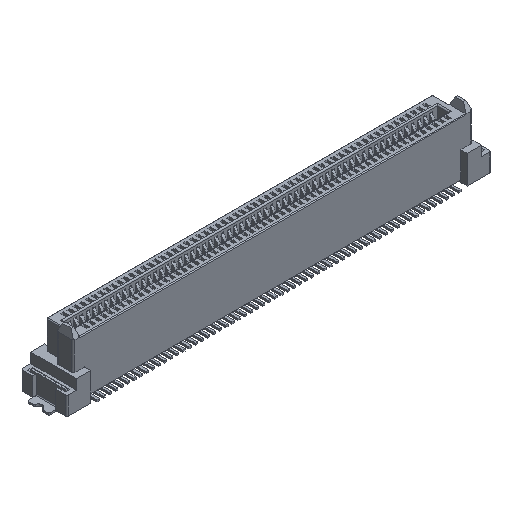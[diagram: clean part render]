
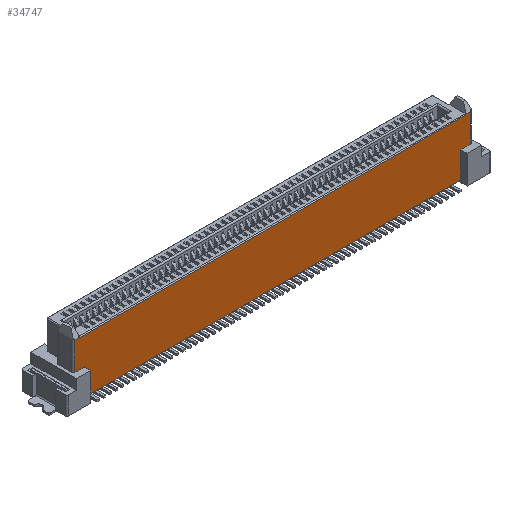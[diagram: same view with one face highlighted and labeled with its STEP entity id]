
A CAD part, isometric view. The second image highlights one B-rep face of the part: STEP entity #34747.
In plain terms, the highlighted planar face has unit normal (0, -1, 0).
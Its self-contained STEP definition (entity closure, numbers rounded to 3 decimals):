
#33016=CARTESIAN_POINT('Vertex',(24.55,-2.175,3.2)) ;
#33019=CARTESIAN_POINT('Line Origine',(0.,-2.175,3.2)) ;
#33023=CARTESIAN_POINT('Vertex',(-24.55,-2.175,3.2)) ;
#34504=CARTESIAN_POINT('Vertex',(25.8,-2.175,10.35)) ;
#34525=CARTESIAN_POINT('Vertex',(25.2,-2.175,10.35)) ;
#34528=CARTESIAN_POINT('Line Origine',(0.,-2.175,10.35)) ;
#34646=CARTESIAN_POINT('Axis2P3D Location',(0.,-2.175,6.65)) ;
#34651=CARTESIAN_POINT('Line Origine',(25.2,-2.175,10.3)) ;
#34655=CARTESIAN_POINT('Vertex',(25.2,-2.175,10.25)) ;
#34658=CARTESIAN_POINT('Line Origine',(0.,-2.175,10.25)) ;
#34662=CARTESIAN_POINT('Vertex',(-25.2,-2.175,10.25)) ;
#34665=CARTESIAN_POINT('Line Origine',(-25.2,-2.175,10.3)) ;
#34669=CARTESIAN_POINT('Vertex',(-25.2,-2.175,10.35)) ;
#34672=CARTESIAN_POINT('Line Origine',(-25.5,-2.175,10.35)) ;
#34676=CARTESIAN_POINT('Vertex',(-25.8,-2.175,10.35)) ;
#34679=CARTESIAN_POINT('Line Origine',(-25.8,-2.175,8.5)) ;
#34683=CARTESIAN_POINT('Vertex',(-25.8,-2.175,6.65)) ;
#34686=CARTESIAN_POINT('Line Origine',(-25.5,-2.175,6.65)) ;
#34690=CARTESIAN_POINT('Vertex',(-25.2,-2.175,6.65)) ;
#34693=CARTESIAN_POINT('Line Origine',(-24.875,-2.175,6.65)) ;
#34697=CARTESIAN_POINT('Vertex',(-24.55,-2.175,6.65)) ;
#34700=CARTESIAN_POINT('Line Origine',(-24.55,-2.175,4.925)) ;
#34705=CARTESIAN_POINT('Line Origine',(24.55,-2.175,4.925)) ;
#34709=CARTESIAN_POINT('Vertex',(24.55,-2.175,6.65)) ;
#34712=CARTESIAN_POINT('Line Origine',(24.875,-2.175,6.65)) ;
#34716=CARTESIAN_POINT('Vertex',(25.2,-2.175,6.65)) ;
#34719=CARTESIAN_POINT('Line Origine',(25.5,-2.175,6.65)) ;
#34723=CARTESIAN_POINT('Vertex',(25.8,-2.175,6.65)) ;
#34726=CARTESIAN_POINT('Line Origine',(25.8,-2.175,8.5)) ;
#33020=DIRECTION('Vector Direction',(-1.,0.,0.)) ;
#34529=DIRECTION('Vector Direction',(-1.,0.,0.)) ;
#34647=DIRECTION('Axis2P3D Direction',(0.,1.,0.)) ;
#34648=DIRECTION('Axis2P3D XDirection',(0.,0.,1.)) ;
#34652=DIRECTION('Vector Direction',(0.,0.,1.)) ;
#34659=DIRECTION('Vector Direction',(1.,0.,0.)) ;
#34666=DIRECTION('Vector Direction',(0.,0.,1.)) ;
#34673=DIRECTION('Vector Direction',(-1.,0.,0.)) ;
#34680=DIRECTION('Vector Direction',(0.,0.,1.)) ;
#34687=DIRECTION('Vector Direction',(-1.,0.,0.)) ;
#34694=DIRECTION('Vector Direction',(1.,0.,0.)) ;
#34701=DIRECTION('Vector Direction',(0.,0.,-1.)) ;
#34706=DIRECTION('Vector Direction',(0.,0.,-1.)) ;
#34713=DIRECTION('Vector Direction',(1.,0.,0.)) ;
#34720=DIRECTION('Vector Direction',(1.,0.,0.)) ;
#34727=DIRECTION('Vector Direction',(0.,0.,1.)) ;
#34649=AXIS2_PLACEMENT_3D('Plane Axis2P3D',#34646,#34647,#34648) ;
#34732=ORIENTED_EDGE('',*,*,#34532,.F.) ;
#34733=ORIENTED_EDGE('',*,*,#34657,.F.) ;
#34734=ORIENTED_EDGE('',*,*,#34664,.F.) ;
#34735=ORIENTED_EDGE('',*,*,#34671,.F.) ;
#34736=ORIENTED_EDGE('',*,*,#34678,.F.) ;
#34737=ORIENTED_EDGE('',*,*,#34685,.F.) ;
#34738=ORIENTED_EDGE('',*,*,#34692,.T.) ;
#34739=ORIENTED_EDGE('',*,*,#34699,.T.) ;
#34740=ORIENTED_EDGE('',*,*,#34704,.T.) ;
#34741=ORIENTED_EDGE('',*,*,#33025,.F.) ;
#34742=ORIENTED_EDGE('',*,*,#34711,.F.) ;
#34743=ORIENTED_EDGE('',*,*,#34718,.T.) ;
#34744=ORIENTED_EDGE('',*,*,#34725,.T.) ;
#34745=ORIENTED_EDGE('',*,*,#34730,.T.) ;
#33021=VECTOR('Line Direction',#33020,1.) ;
#34530=VECTOR('Line Direction',#34529,1.) ;
#34653=VECTOR('Line Direction',#34652,1.) ;
#34660=VECTOR('Line Direction',#34659,1.) ;
#34667=VECTOR('Line Direction',#34666,1.) ;
#34674=VECTOR('Line Direction',#34673,1.) ;
#34681=VECTOR('Line Direction',#34680,1.) ;
#34688=VECTOR('Line Direction',#34687,1.) ;
#34695=VECTOR('Line Direction',#34694,1.) ;
#34702=VECTOR('Line Direction',#34701,1.) ;
#34707=VECTOR('Line Direction',#34706,1.) ;
#34714=VECTOR('Line Direction',#34713,1.) ;
#34721=VECTOR('Line Direction',#34720,1.) ;
#34728=VECTOR('Line Direction',#34727,1.) ;
#34747=ADVANCED_FACE('\X2\585180F6\X0\2',(#34746),#34650,.F.) ;
#33025=EDGE_CURVE('',#33017,#33024,#33022,.T.) ;
#34532=EDGE_CURVE('',#34526,#34505,#34531,.F.) ;
#34657=EDGE_CURVE('',#34656,#34526,#34654,.T.) ;
#34664=EDGE_CURVE('',#34663,#34656,#34661,.T.) ;
#34671=EDGE_CURVE('',#34670,#34663,#34668,.F.) ;
#34678=EDGE_CURVE('',#34677,#34670,#34675,.F.) ;
#34685=EDGE_CURVE('',#34684,#34677,#34682,.T.) ;
#34692=EDGE_CURVE('',#34684,#34691,#34689,.F.) ;
#34699=EDGE_CURVE('',#34691,#34698,#34696,.T.) ;
#34704=EDGE_CURVE('',#34698,#33024,#34703,.T.) ;
#34711=EDGE_CURVE('',#34710,#33017,#34708,.T.) ;
#34718=EDGE_CURVE('',#34710,#34717,#34715,.T.) ;
#34725=EDGE_CURVE('',#34717,#34724,#34722,.T.) ;
#34730=EDGE_CURVE('',#34724,#34505,#34729,.T.) ;
#34731=EDGE_LOOP('',(#34732,#34733,#34734,#34735,#34736,#34737,#34738,#34739,#34740,#34741,#34742,#34743,#34744,#34745)) ;
#34746=FACE_OUTER_BOUND('',#34731,.T.) ;
#33022=LINE('Line',#33019,#33021) ;
#34531=LINE('Line',#34528,#34530) ;
#34654=LINE('Line',#34651,#34653) ;
#34661=LINE('Line',#34658,#34660) ;
#34668=LINE('Line',#34665,#34667) ;
#34675=LINE('Line',#34672,#34674) ;
#34682=LINE('Line',#34679,#34681) ;
#34689=LINE('Line',#34686,#34688) ;
#34696=LINE('Line',#34693,#34695) ;
#34703=LINE('Line',#34700,#34702) ;
#34708=LINE('Line',#34705,#34707) ;
#34715=LINE('Line',#34712,#34714) ;
#34722=LINE('Line',#34719,#34721) ;
#34729=LINE('Line',#34726,#34728) ;
#34650=PLANE('Plane',#34649) ;
#33017=VERTEX_POINT('',#33016) ;
#33024=VERTEX_POINT('',#33023) ;
#34505=VERTEX_POINT('',#34504) ;
#34526=VERTEX_POINT('',#34525) ;
#34656=VERTEX_POINT('',#34655) ;
#34663=VERTEX_POINT('',#34662) ;
#34670=VERTEX_POINT('',#34669) ;
#34677=VERTEX_POINT('',#34676) ;
#34684=VERTEX_POINT('',#34683) ;
#34691=VERTEX_POINT('',#34690) ;
#34698=VERTEX_POINT('',#34697) ;
#34710=VERTEX_POINT('',#34709) ;
#34717=VERTEX_POINT('',#34716) ;
#34724=VERTEX_POINT('',#34723) ;
